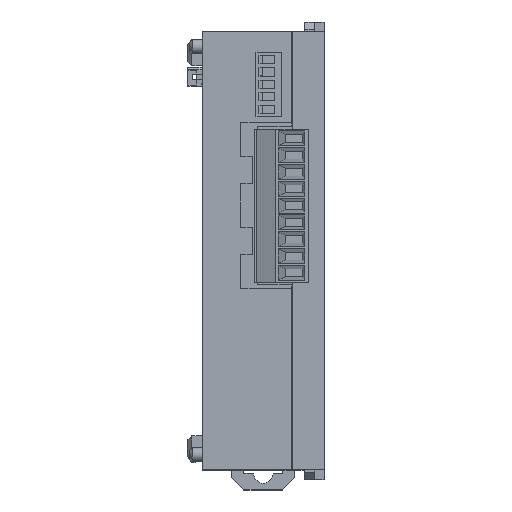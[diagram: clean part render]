
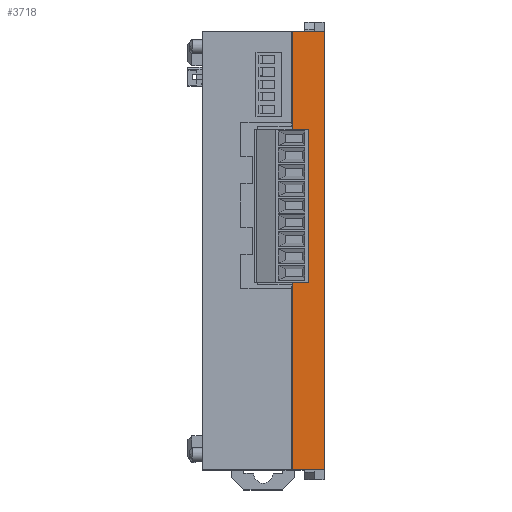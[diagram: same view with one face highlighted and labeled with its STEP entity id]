
A CAD part, top view. The second image highlights one B-rep face of the part: STEP entity #3718.
In plain terms, the highlighted planar face has unit normal (0, 0, 1).
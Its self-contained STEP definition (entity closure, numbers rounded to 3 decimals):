
#2347 = VERTEX_POINT ( 'NONE', #14411 ) ;
#2367 = EDGE_CURVE ( 'NONE', #2347, #2408, #14485, .T. ) ;
#2408 = VERTEX_POINT ( 'NONE', #14637 ) ;
#2811 = VERTEX_POINT ( 'NONE', #15630 ) ;
#2813 = EDGE_CURVE ( 'NONE', #10329, #2811, #15629, .T. ) ;
#3373 = VERTEX_POINT ( 'NONE', #16686 ) ;
#3375 = EDGE_CURVE ( 'NONE', #2811, #3373, #16684, .T. ) ;
#3550 = EDGE_CURVE ( 'NONE', #3373, #2347, #17018, .T. ) ;
#3718 = ADVANCED_FACE ( 'NONE', ( #17333 ), #17319, .T. ) ;
#3719 = EDGE_LOOP ( 'NONE', ( #3720, #3721, #3722, #3790, #3791, #3792 ) ) ;
#3720 = ORIENTED_EDGE ( 'NONE', *, *, #3550, .T. ) ;
#3721 = ORIENTED_EDGE ( 'NONE', *, *, #2367, .T. ) ;
#3722 = ORIENTED_EDGE ( 'NONE', *, *, #3724, .T. ) ;
#3724 = EDGE_CURVE ( 'NONE', #2408, #4345, #17314, .T. ) ;
#3790 = ORIENTED_EDGE ( 'NONE', *, *, #12675, .T. ) ;
#3791 = ORIENTED_EDGE ( 'NONE', *, *, #2813, .T. ) ;
#3792 = ORIENTED_EDGE ( 'NONE', *, *, #3375, .T. ) ;
#4345 = VERTEX_POINT ( 'NONE', #19269 ) ;
#10329 = VERTEX_POINT ( 'NONE', #31030 ) ;
#12675 = EDGE_CURVE ( 'NONE', #4345, #10329, #31137, .T. ) ;
#14411 = CARTESIAN_POINT ( 'NONE',  ( 5.9, 45., 60. ) ) ;
#14482 = DIRECTION ( 'NONE',  ( 0., -1., 0. ) ) ;
#14483 = VECTOR ( 'NONE', #14482, 1000. ) ;
#14484 = CARTESIAN_POINT ( 'NONE',  ( 5.9, 45., 60. ) ) ;
#14485 = LINE ( 'NONE', #14484, #14483 ) ;
#14637 = CARTESIAN_POINT ( 'NONE',  ( 5.9, 25.5, 60. ) ) ;
#15626 = DIRECTION ( 'NONE',  ( 1., 0., 0. ) ) ;
#15627 = VECTOR ( 'NONE', #15626, 1000. ) ;
#15628 = CARTESIAN_POINT ( 'NONE',  ( -12.5, -45., 60. ) ) ;
#15629 = LINE ( 'NONE', #15628, #15627 ) ;
#15630 = CARTESIAN_POINT ( 'NONE',  ( 12.5, -45., 60. ) ) ;
#16681 = DIRECTION ( 'NONE',  ( 0., 1., 0. ) ) ;
#16682 = VECTOR ( 'NONE', #16681, 1000. ) ;
#16683 = CARTESIAN_POINT ( 'NONE',  ( 12.5, 45., 60. ) ) ;
#16684 = LINE ( 'NONE', #16683, #16682 ) ;
#16686 = CARTESIAN_POINT ( 'NONE',  ( 12.5, 45., 60. ) ) ;
#17015 = DIRECTION ( 'NONE',  ( -1., 0., 0. ) ) ;
#17016 = VECTOR ( 'NONE', #17015, 1000. ) ;
#17017 = CARTESIAN_POINT ( 'NONE',  ( -12.5, 45., 60. ) ) ;
#17018 = LINE ( 'NONE', #17017, #17016 ) ;
#17311 = DIRECTION ( 'NONE',  ( 0., -1., 0. ) ) ;
#17312 = VECTOR ( 'NONE', #17311, 1000. ) ;
#17313 = CARTESIAN_POINT ( 'NONE',  ( 5.9, -45., 60. ) ) ;
#17314 = LINE ( 'NONE', #17313, #17312 ) ;
#17315 = DIRECTION ( 'NONE',  ( 1., 0., 0. ) ) ;
#17316 = DIRECTION ( 'NONE',  ( 0., 0., 1. ) ) ;
#17317 = CARTESIAN_POINT ( 'NONE',  ( -12.5, -45., 60. ) ) ;
#17318 = AXIS2_PLACEMENT_3D ( 'NONE', #17317, #17316, #17315 ) ;
#17319 = PLANE ( 'NONE',  #17318 ) ;
#17333 = FACE_OUTER_BOUND ( 'NONE', #3719, .T. ) ;
#19269 = CARTESIAN_POINT ( 'NONE',  ( 5.9, -7., 60. ) ) ;
#31030 = CARTESIAN_POINT ( 'NONE',  ( 5.9, -45., 60. ) ) ;
#31134 = DIRECTION ( 'NONE',  ( 0., -1., 0. ) ) ;
#31135 = VECTOR ( 'NONE', #31134, 1000. ) ;
#31136 = CARTESIAN_POINT ( 'NONE',  ( 5.9, 45., 60. ) ) ;
#31137 = LINE ( 'NONE', #31136, #31135 ) ;
